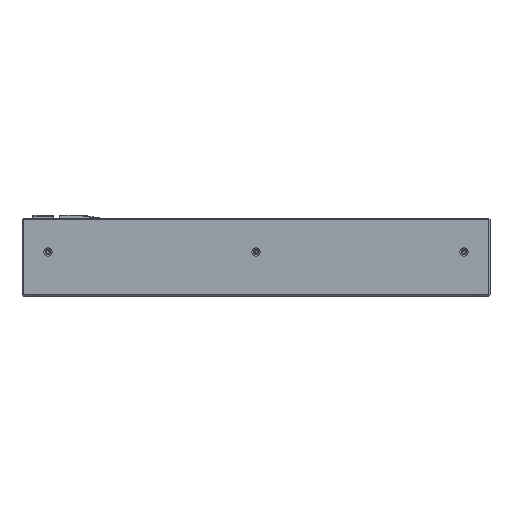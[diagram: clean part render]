
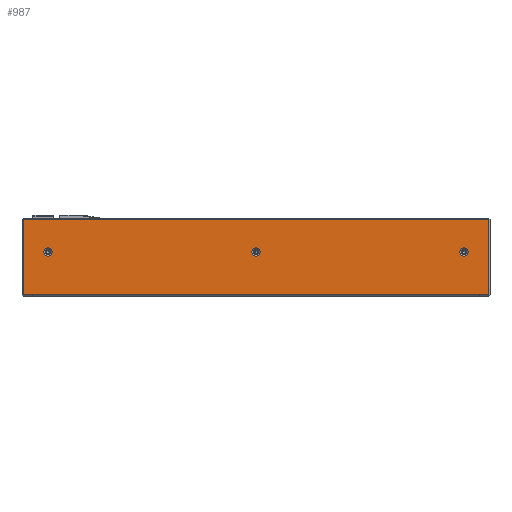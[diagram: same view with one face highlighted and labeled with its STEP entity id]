
A CAD part, top view. The second image highlights one B-rep face of the part: STEP entity #987.
In plain terms, the highlighted planar face has unit normal (0, 0, 1).
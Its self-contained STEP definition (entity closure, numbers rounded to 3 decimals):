
#346 = DIRECTION ( 'NONE',  ( 0., 0., 1. ) ) ;
#987 = ADVANCED_FACE ( 'NONE', ( #6973, #11424, #23411, #1978 ), #16765, .F. ) ;
#1028 = DIRECTION ( 'NONE',  ( 0., 1., 0. ) ) ;
#1287 = LINE ( 'NONE', #14004, #11032 ) ;
#1436 = DIRECTION ( 'NONE',  ( -1., 0., 0. ) ) ;
#1673 = DIRECTION ( 'NONE',  ( 0., -1., 0. ) ) ;
#1842 = VERTEX_POINT ( 'NONE', #8737 ) ;
#1978 = FACE_BOUND ( 'NONE', #10747, .T. ) ;
#2629 = CARTESIAN_POINT ( 'NONE',  ( -89.5, 29.5, 90. ) ) ;
#3190 = AXIS2_PLACEMENT_3D ( 'NONE', #22286, #11089, #24139 ) ;
#3575 = VERTEX_POINT ( 'NONE', #12502 ) ;
#3686 = CARTESIAN_POINT ( 'NONE',  ( 0., 17., 90. ) ) ;
#3740 = EDGE_CURVE ( 'NONE', #3575, #7442, #23078, .T. ) ;
#3929 = VERTEX_POINT ( 'NONE', #18282 ) ;
#4861 = VERTEX_POINT ( 'NONE', #13700 ) ;
#5048 = VECTOR ( 'NONE', #1028, 1000. ) ;
#5333 = AXIS2_PLACEMENT_3D ( 'NONE', #3686, #9338, #5813 ) ;
#5590 = EDGE_CURVE ( 'NONE', #14285, #1842, #5840, .T. ) ;
#5813 = DIRECTION ( 'NONE',  ( 1., 0., 0. ) ) ;
#5840 = CIRCLE ( 'NONE', #13896, 1.6 ) ;
#6285 = ORIENTED_EDGE ( 'NONE', *, *, #14442, .T. ) ;
#6698 = DIRECTION ( 'NONE',  ( 1., 0., 0. ) ) ;
#6973 = FACE_OUTER_BOUND ( 'NONE', #19197, .T. ) ;
#7265 = CARTESIAN_POINT ( 'NONE',  ( -90., 30., 90. ) ) ;
#7442 = VERTEX_POINT ( 'NONE', #21123 ) ;
#7550 = EDGE_CURVE ( 'NONE', #12463, #16340, #11167, .T. ) ;
#7653 = ORIENTED_EDGE ( 'NONE', *, *, #16861, .F. ) ;
#7748 = CARTESIAN_POINT ( 'NONE',  ( -80., 17., 90. ) ) ;
#7886 = CIRCLE ( 'NONE', #11891, 1.6 ) ;
#8007 = DIRECTION ( 'NONE',  ( 1., 0., 0. ) ) ;
#8098 = CARTESIAN_POINT ( 'NONE',  ( 0., 17., 90. ) ) ;
#8220 = VECTOR ( 'NONE', #14257, 1000. ) ;
#8661 = CARTESIAN_POINT ( 'NONE',  ( -90., 0.5, 90. ) ) ;
#8737 = CARTESIAN_POINT ( 'NONE',  ( 78.4, 17., 90. ) ) ;
#9338 = DIRECTION ( 'NONE',  ( 0., 0., 1. ) ) ;
#9378 = DIRECTION ( 'NONE',  ( 0., 0., 1. ) ) ;
#9788 = CARTESIAN_POINT ( 'NONE',  ( 81.6, 17., 90. ) ) ;
#9844 = AXIS2_PLACEMENT_3D ( 'NONE', #7748, #346, #17483 ) ;
#10174 = EDGE_CURVE ( 'NONE', #20898, #3929, #17392, .T. ) ;
#10539 = DIRECTION ( 'NONE',  ( 0., 0., 1. ) ) ;
#10747 = EDGE_LOOP ( 'NONE', ( #7653, #18978 ) ) ;
#11021 = CARTESIAN_POINT ( 'NONE',  ( -89.5, 0.5, 90. ) ) ;
#11032 = VECTOR ( 'NONE', #23195, 1000. ) ;
#11055 = VECTOR ( 'NONE', #1673, 1000. ) ;
#11089 = DIRECTION ( 'NONE',  ( 0., 0., 1. ) ) ;
#11167 = LINE ( 'NONE', #8661, #8220 ) ;
#11424 = FACE_BOUND ( 'NONE', #16049, .T. ) ;
#11891 = AXIS2_PLACEMENT_3D ( 'NONE', #18033, #10539, #6698 ) ;
#12160 = CARTESIAN_POINT ( 'NONE',  ( 89.5, 30., 90. ) ) ;
#12246 = LINE ( 'NONE', #18325, #11055 ) ;
#12425 = EDGE_CURVE ( 'NONE', #7442, #3575, #7886, .T. ) ;
#12463 = VERTEX_POINT ( 'NONE', #11021 ) ;
#12502 = CARTESIAN_POINT ( 'NONE',  ( -81.6, 17., 90. ) ) ;
#12507 = ORIENTED_EDGE ( 'NONE', *, *, #7550, .T. ) ;
#12783 = EDGE_CURVE ( 'NONE', #1842, #14285, #20762, .T. ) ;
#13700 = CARTESIAN_POINT ( 'NONE',  ( 89.5, 29.5, 90. ) ) ;
#13893 = EDGE_CURVE ( 'NONE', #4861, #16963, #1287, .T. ) ;
#13896 = AXIS2_PLACEMENT_3D ( 'NONE', #20612, #9378, #22460 ) ;
#13920 = LINE ( 'NONE', #12160, #5048 ) ;
#14004 = CARTESIAN_POINT ( 'NONE',  ( -90., 29.5, 90. ) ) ;
#14088 = ORIENTED_EDGE ( 'NONE', *, *, #12425, .F. ) ;
#14257 = DIRECTION ( 'NONE',  ( 1., 0., 0. ) ) ;
#14285 = VERTEX_POINT ( 'NONE', #9788 ) ;
#14442 = EDGE_CURVE ( 'NONE', #16340, #4861, #13920, .T. ) ;
#14854 = ORIENTED_EDGE ( 'NONE', *, *, #5590, .F. ) ;
#16049 = EDGE_LOOP ( 'NONE', ( #14854, #18950 ) ) ;
#16075 = AXIS2_PLACEMENT_3D ( 'NONE', #7265, #23913, #1436 ) ;
#16340 = VERTEX_POINT ( 'NONE', #19057 ) ;
#16765 = PLANE ( 'NONE',  #16075 ) ;
#16861 = EDGE_CURVE ( 'NONE', #3929, #20898, #23214, .T. ) ;
#16963 = VERTEX_POINT ( 'NONE', #2629 ) ;
#17183 = ORIENTED_EDGE ( 'NONE', *, *, #18492, .T. ) ;
#17392 = CIRCLE ( 'NONE', #5333, 1.6 ) ;
#17483 = DIRECTION ( 'NONE',  ( 1., 0., 0. ) ) ;
#17579 = DIRECTION ( 'NONE',  ( 0., 0., 1. ) ) ;
#18033 = CARTESIAN_POINT ( 'NONE',  ( -80., 17., 90. ) ) ;
#18282 = CARTESIAN_POINT ( 'NONE',  ( 1.6, 17., 90. ) ) ;
#18325 = CARTESIAN_POINT ( 'NONE',  ( -89.5, 30., 90. ) ) ;
#18492 = EDGE_CURVE ( 'NONE', #16963, #12463, #12246, .T. ) ;
#18950 = ORIENTED_EDGE ( 'NONE', *, *, #12783, .F. ) ;
#18959 = ORIENTED_EDGE ( 'NONE', *, *, #13893, .T. ) ;
#18978 = ORIENTED_EDGE ( 'NONE', *, *, #10174, .F. ) ;
#19057 = CARTESIAN_POINT ( 'NONE',  ( 89.5, 0.5, 90. ) ) ;
#19197 = EDGE_LOOP ( 'NONE', ( #17183, #12507, #6285, #18959 ) ) ;
#19453 = ORIENTED_EDGE ( 'NONE', *, *, #3740, .F. ) ;
#20612 = CARTESIAN_POINT ( 'NONE',  ( 80., 17., 90. ) ) ;
#20758 = CARTESIAN_POINT ( 'NONE',  ( -1.6, 17., 90. ) ) ;
#20762 = CIRCLE ( 'NONE', #3190, 1.6 ) ;
#20898 = VERTEX_POINT ( 'NONE', #20758 ) ;
#21123 = CARTESIAN_POINT ( 'NONE',  ( -78.4, 17., 90. ) ) ;
#21796 = EDGE_LOOP ( 'NONE', ( #14088, #19453 ) ) ;
#22286 = CARTESIAN_POINT ( 'NONE',  ( 80., 17., 90. ) ) ;
#22460 = DIRECTION ( 'NONE',  ( 1., 0., 0. ) ) ;
#23078 = CIRCLE ( 'NONE', #9844, 1.6 ) ;
#23195 = DIRECTION ( 'NONE',  ( -1., 0., 0. ) ) ;
#23214 = CIRCLE ( 'NONE', #23955, 1.6 ) ;
#23411 = FACE_BOUND ( 'NONE', #21796, .T. ) ;
#23913 = DIRECTION ( 'NONE',  ( 0., 0., -1. ) ) ;
#23955 = AXIS2_PLACEMENT_3D ( 'NONE', #8098, #17579, #8007 ) ;
#24139 = DIRECTION ( 'NONE',  ( 1., 0., 0. ) ) ;
